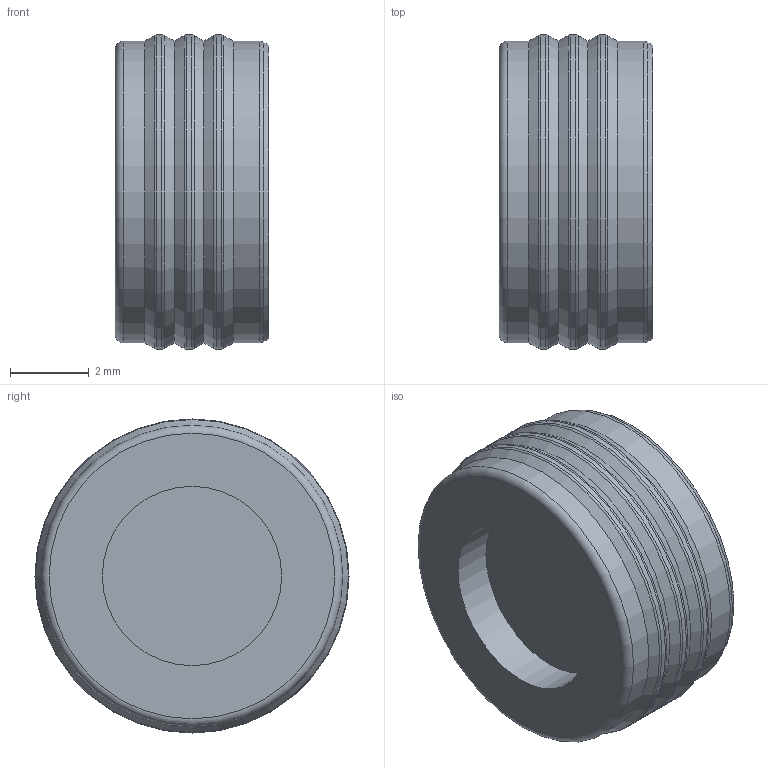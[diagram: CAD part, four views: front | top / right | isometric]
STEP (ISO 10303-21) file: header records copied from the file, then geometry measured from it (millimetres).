
FILE_DESCRIPTION(/* description */ ('SCREEN, 8mm, PRESS-IN'),/* implementation_level */ '2;1');
FILE_NAME(/* name */ '\\ABSOLUTE\SmWork\Vernon\SCRM480XXXXS.stp',/* time_stamp */ '2021-03-23T15:08:29-04:00',/* author */ ('VernonJ'),/* organization */ (''),/* preprocessor_version */ 'ST-DEVELOPER v18',/* originating_system */ 'Autodesk Inventor 2020',/* authorisation */ '');
FILE_SCHEMA (('AUTOMOTIVE_DESIGN { 1 0 10303 214 3 1 1 }'));
Length unit declared in the file: millimetre
Products named in the file (1): SCRM480XXXXS
Bounding box: 3.9 x 7.97 x 7.97 mm (x, y, z)
Volume: 168.1 mm3; surface area: 203.5 mm2
Topology: 1 solids, 1 shells, 24 faces, 82 edges, 61 vertices
Faces by surface type: torus 8, cone 7, cylinder 6, plane 3
Full cylindrical faces by diameter (mm): 4.55 x1, 7.65 x2, 7.97 x3
Entity records: 1008 total; most frequent: DIRECTION 201, CARTESIAN_POINT 168, ORIENTED_EDGE 164, AXIS2_PLACEMENT_3D 94, EDGE_CURVE 82, CIRCLE 69, VERTEX_POINT 61, EDGE_LOOP 25
